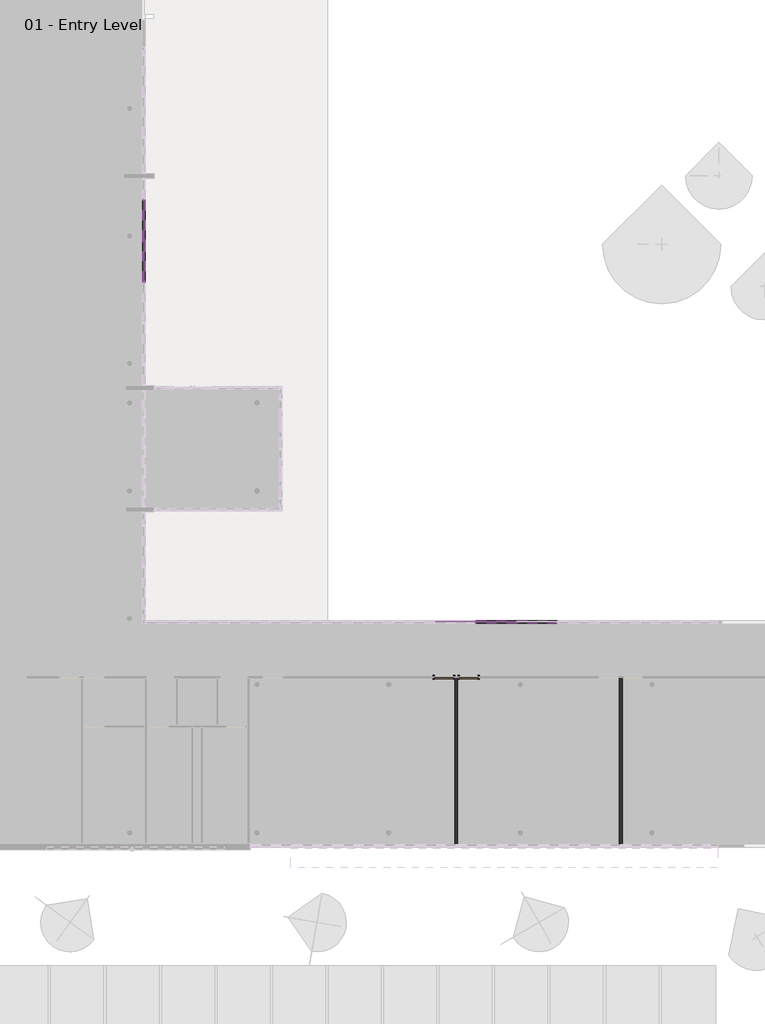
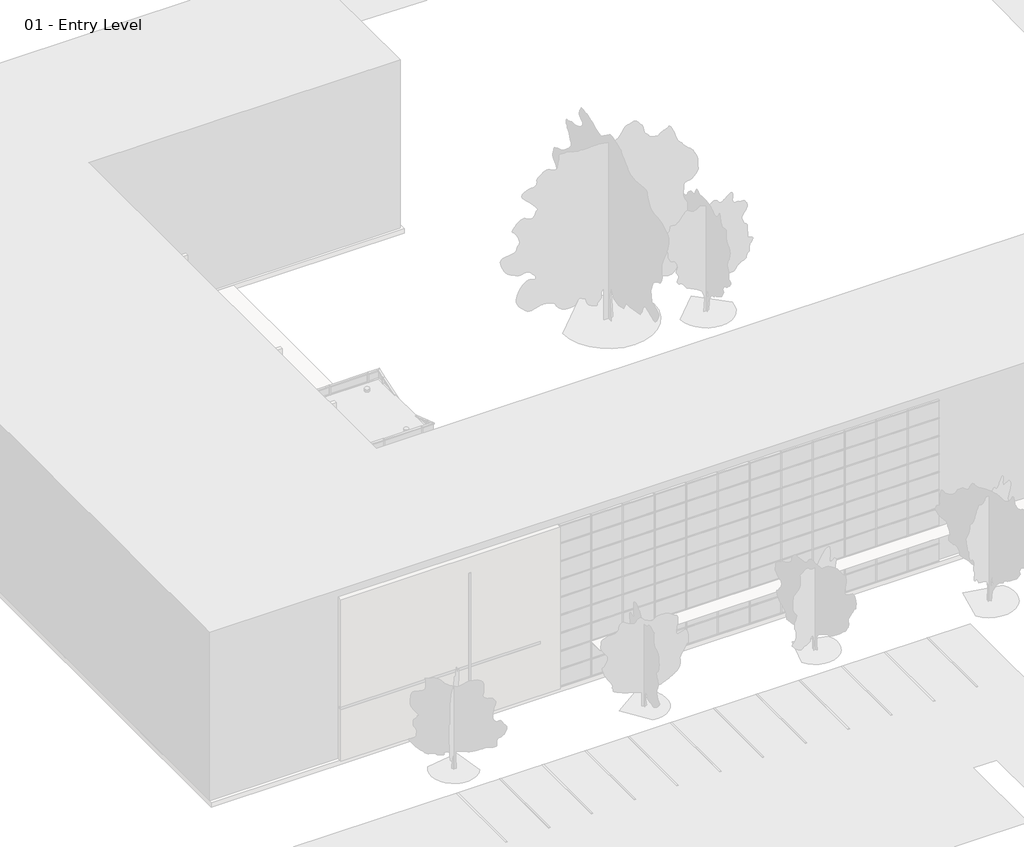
# One storey, part 18 of 34: 77 members, 36 plates, 2 doors, 2 walls.
"""IFC4 building model written with IfcOpenShell, lengths in millimetres."""

import ifcopenshell
import ifcopenshell.guid

model = None  # the IFC model being written
_history = None  # IfcOwnerHistory: only IFC2X3 demands one
_inside = {}  # id of a spatial element -> (the spatial element, [elements in it])
_under = {}  # id of a project, library or spatial element -> (it, [spatial elements below it])
_declared = {}  # id of a project -> (the project, [libraries it declares])
_typed = {}  # id of a type object -> (the type object, [elements of that type])
_made_of = {}  # id of a material, layer set ... -> (it, [elements and type objects made of it])


def new_model(schema):
    """Start an empty IFC model of exactly this schema.

    Asked for "IFC4X3", IfcOpenShell would pick the latest addendum, in which some entities
    have other attributes; the version numbers below select the first issue.
    IFC2X3 requires an IfcOwnerHistory on every rooted entity: one is made here for all.
    """
    global model, _history
    if schema == "IFC4X3":
        model = ifcopenshell.file(schema_version=(4, 3, 0, 0))
    else:
        model = ifcopenshell.file(schema=schema)
    _inside.clear()
    _under.clear()
    _declared.clear()
    _typed.clear()
    _made_of.clear()
    _history = None
    if model.schema == "IFC2X3":
        org = make("IfcOrganization", Name="unknown")
        user = make(
            "IfcPersonAndOrganization",
            ThePerson=make("IfcPerson", FamilyName="unknown"),
            TheOrganization=org,
        )
        app = make(
            "IfcApplication",
            ApplicationDeveloper=org,
            Version="unknown",
            ApplicationFullName="unknown",
            ApplicationIdentifier="unknown",
        )
        _history = make(
            "IfcOwnerHistory",
            OwningUser=user,
            OwningApplication=app,
            ChangeAction="ADDED",
            CreationDate=0,
        )
    return model


def make(cls, **values):
    """One entity of the class cls with the attributes given. An attribute that is None is left unset."""
    return model.create_entity(
        cls, **{name: value for name, value in values.items() if value is not None}
    )


def rooted(cls, **values):
    """An entity with a GlobalId (a new one), such as an element, a storey or a relation."""
    return make(cls, GlobalId=ifcopenshell.guid.new(), OwnerHistory=_history, **values)


def si_unit(unit_type, name, prefix=None):
    """IfcSIUnit, for example si_unit("LENGTHUNIT", "METRE", prefix="MILLI")."""
    return make("IfcSIUnit", UnitType=unit_type, Prefix=prefix, Name=name)


def assignment(units):
    """IfcUnitAssignment: the units of a project."""
    return None if units is None else make("IfcUnitAssignment", Units=units)


def point(xyz):
    """IfcCartesianPoint."""
    return None if xyz is None else make("IfcCartesianPoint", Coordinates=xyz)


def direction(xyz):
    """IfcDirection."""
    return None if xyz is None else make("IfcDirection", DirectionRatios=xyz)


def frame(location, z_axis=None, x_axis=None):
    """IfcAxis2Placement3D, a coordinate frame: its origin and axes. An axis left out is left unset."""
    return make(
        "IfcAxis2Placement3D",
        Location=point(location),
        Axis=direction(z_axis),
        RefDirection=direction(x_axis),
    )


def origin():
    """The frame at (0, 0, 0) with its axes left unset."""
    return frame((0.0, 0.0, 0.0))


def origin_with_axes():
    """The frame at (0, 0, 0) with the z axis (0, 0, 1) and the x axis (1, 0, 0) written out."""
    return frame((0.0, 0.0, 0.0), z_axis=(0.0, 0.0, 1.0), x_axis=(1.0, 0.0, 0.0))


def place(relative_to, where):
    """IfcLocalPlacement: puts the frame where relative to a parent placement (None: the world)."""
    return make(
        "IfcLocalPlacement", PlacementRelTo=relative_to, RelativePlacement=where
    )


def context(
    kind, dimensions, precision=None, world=None, true_north=None, identifier=None
):
    """IfcGeometricRepresentationContext, for example the 3D "Model" context."""
    return make(
        "IfcGeometricRepresentationContext",
        ContextIdentifier=identifier,
        ContextType=kind,
        CoordinateSpaceDimension=dimensions,
        Precision=precision,
        WorldCoordinateSystem=world,
        TrueNorth=true_north,
    )


def project(units=None, contexts=None):
    """IfcProject with its units and contexts."""
    return rooted(
        "IfcProject",
        Name="project",
        RepresentationContexts=contexts,
        UnitsInContext=assignment(units),
    )


def spatial(cls, under=None, at=None, **own):
    """A site, building, storey or space (cls), placed at a placement, below another one or the project."""
    s = rooted(cls, ObjectPlacement=at, **own)
    if under is not None:
        _under.setdefault(under.id(), (under, []))[1].append(s)
    return s


def polyline(points):
    """IfcPolyline through the points."""
    return make("IfcPolyline", Points=[point(p) for p in points])


def outline(outer, holes=None, kind="AREA"):
    """IfcArbitraryClosedProfileDef: a profile drawn as a closed curve; with holes, ...WithVoids."""
    if holes is None:
        return make("IfcArbitraryClosedProfileDef", ProfileType=kind, OuterCurve=outer)
    return make(
        "IfcArbitraryProfileDefWithVoids",
        ProfileType=kind,
        OuterCurve=outer,
        InnerCurves=holes,
    )


def extrude(swept, where, along, depth):
    """IfcExtrudedAreaSolid: the profile swept, set in the frame where, extruded along a direction by depth."""
    return make(
        "IfcExtrudedAreaSolid",
        SweptArea=swept,
        Position=where,
        ExtrudedDirection=direction(along),
        Depth=depth,
    )


def shape(context_of_items, identifier, shape_type, items):
    """IfcShapeRepresentation: the items that make up one representation, for example the "Body"."""
    return make(
        "IfcShapeRepresentation",
        ContextOfItems=context_of_items,
        RepresentationIdentifier=identifier,
        RepresentationType=shape_type,
        Items=items,
    )


def source(mapping_origin, context_of_items, identifier, shape_type, items):
    """IfcRepresentationMap: a shape defined once, which mapped items show again and again."""
    return make(
        "IfcRepresentationMap",
        MappingOrigin=mapping_origin,
        MappedRepresentation=shape(context_of_items, identifier, shape_type, items),
    )


def transform(
    local_origin,
    x_axis=None,
    y_axis=None,
    z_axis=None,
    scale=None,
    scale2=None,
    scale3=None,
    uniform=True,
):
    """IfcCartesianTransformationOperator3D, or its non-uniform kind. x_axis, y_axis, z_axis: its Axis1, 2, 3."""
    if uniform:
        return make(
            "IfcCartesianTransformationOperator3D",
            Axis1=direction(x_axis),
            Axis2=direction(y_axis),
            LocalOrigin=point(local_origin),
            Scale=scale,
            Axis3=direction(z_axis),
        )
    return make(
        "IfcCartesianTransformationOperator3DnonUniform",
        Axis1=direction(x_axis),
        Axis2=direction(y_axis),
        LocalOrigin=point(local_origin),
        Scale=scale,
        Axis3=direction(z_axis),
        Scale2=scale2,
        Scale3=scale3,
    )


def mapped(mapping_source, mapping_target):
    """IfcMappedItem: shows the shape of a source again, moved by a transform."""
    return make(
        "IfcMappedItem", MappingSource=mapping_source, MappingTarget=mapping_target
    )


def made_of(thing, what):
    """Note that an element or type object is made of a material, layer set ...; save() writes the relation."""
    if what is not None:
        _made_of.setdefault(what.id(), (what, []))[1].append(thing)
    return thing


def element(
    cls,
    number,
    at=None,
    inside=None,
    cuts=None,
    type_object=None,
    material=None,
    context=None,
    identifier="Body",
    shape_type=None,
    held_by="IfcProductDefinitionShape",
    body=None,
    shapes=None,
    **own,
):
    """One element of the class cls, such as IfcWall. Its Tag is "e" and its number.

    at: its placement. inside: the storey or other place that contains it. cuts: it is an
    opening in that element (IfcRelVoidsElement). A single representation is given by context,
    identifier, shape_type and body (its items); several are given by shapes. held_by: the class
    of the entity that holds the representations. save() writes the other relations.
    """
    e = rooted(cls, Tag="e%d" % number, ObjectPlacement=at, **own)
    if body is not None:
        shapes = [shape(context, identifier, shape_type, body)]
    if shapes is not None:
        e.Representation = make(held_by, Representations=shapes)
    if inside is not None:
        _inside.setdefault(inside.id(), (inside, []))[1].append(e)
    if cuts is not None:
        rooted(
            "IfcRelVoidsElement", RelatingBuildingElement=cuts, RelatedOpeningElement=e
        )
    if type_object is not None:
        _typed.setdefault(type_object.id(), (type_object, []))[1].append(e)
    return made_of(e, material)


def aggregate(whole, parts):
    """IfcRelAggregates: a whole, such as a stair, and the parts it consists of."""
    return rooted("IfcRelAggregates", RelatingObject=whole, RelatedObjects=parts)


def save(model, path):
    """Write the relations noted so far, then the file.

    IfcRelAggregates (storeys below a building ...), IfcRelContainedInSpatialStructure (elements
    in a storey), IfcRelDefinesByType, IfcRelAssociatesMaterial and IfcRelDeclares: one each for
    every whole, place, type object, material and project.
    """
    for whole, parts in _under.values():
        aggregate(whole, parts)
    for where, things in _inside.values():
        rooted(
            "IfcRelContainedInSpatialStructure",
            RelatedElements=things,
            RelatingStructure=where,
        )
    for kind, things in _typed.values():
        rooted("IfcRelDefinesByType", RelatedObjects=things, RelatingType=kind)
    for what, things in _made_of.values():
        rooted("IfcRelAssociatesMaterial", RelatedObjects=things, RelatingMaterial=what)
    for by, libraries in _declared.values():
        rooted("IfcRelDeclares", RelatingContext=by, RelatedDefinitions=libraries)
    model.write(path)


def door_a1797ceb(model_context):
    return source(origin(), model_context, "Body", "SweptSolid", [
        extrude(outline(polyline([(2209.8, -533.4), (0.0, -533.4), (0.0, -457.2), (2133.6, -457.2), (2133.6, 457.2), (0.0, 457.2), (0.0, 533.4), (2209.8, 533.4), (2209.8, -533.4)])), frame((0.0, 63.5, 0.0), z_axis=(0.0, 1.0, 0.0), x_axis=(0.0, 0.0, 1.0)), (0.0, 0.0, 1.0), 25.4),
        extrude(outline(polyline([(2209.8, 533.4), (2209.8, -533.4), (0.0, -533.4), (0.0, -457.2), (2133.6, -457.2), (2133.6, 457.2), (0.0, 457.2), (0.0, 533.4), (2209.8, 533.4)])), frame((0.0, -88.9, 0.0), z_axis=(0.0, 1.0, 0.0), x_axis=(0.0, 0.0, 1.0)), (0.0, 0.0, 1.0), 25.4),
        extrude(outline(polyline([(457.2, 12.7), (-457.2, 12.7), (-457.2, 63.5), (457.2, 63.5), (457.2, 12.7)])), origin_with_axes(), (0.0, 0.0, 1.0), 2133.6),
    ])


def door_a3eb833a(model_context):
    return source(origin(), model_context, "Body", "SweptSolid", [
        extrude(outline(polyline([(2209.8, -533.4), (0.0, -533.4), (0.0, -457.2), (2133.6, -457.2), (2133.6, 457.2), (0.0, 457.2), (0.0, 533.4), (2209.8, 533.4), (2209.8, -533.4)])), frame((0.0, -88.9, 0.0), z_axis=(0.0, 1.0, 0.0), x_axis=(0.0, 0.0, 1.0)), (0.0, 0.0, 1.0), 25.4),
        extrude(outline(polyline([(2209.8, 533.4), (2209.8, -533.4), (0.0, -533.4), (0.0, -457.2), (2133.6, -457.2), (2133.6, 457.2), (0.0, 457.2), (0.0, 533.4), (2209.8, 533.4)])), frame((0.0, 63.5, 0.0), z_axis=(0.0, 1.0, 0.0), x_axis=(0.0, 0.0, 1.0)), (0.0, 0.0, 1.0), 25.4),
        extrude(outline(polyline([(457.2, -12.7), (457.2, -63.5), (-457.2, -63.5), (-457.2, -12.7), (457.2, -12.7)])), origin_with_axes(), (0.0, 0.0, 1.0), 2133.6),
    ])


def member_2b49869a(model_context):
    return source(origin(), model_context, "Body", "SweptSolid", [
        extrude(outline(polyline([(31.75, 63.5), (31.75, -63.5), (-31.75, -63.5), (-31.75, 63.5), (31.75, 63.5)])), frame((0.0, 0.0, -1219.2), z_axis=(0.0, 0.0, 1.0), x_axis=(1.0, 0.0, 0.0)), (0.0, 0.0, 1.0), 1219.2),
    ])


def member_391b434c(model_context):
    return source(origin(), model_context, "Body", "SweptSolid", [
        extrude(outline(polyline([(0.0, 63.5), (0.0, -63.5), (-63.5, -63.5), (-63.5, 63.5), (0.0, 63.5)])), frame((0.0, 0.0, -1968.5), z_axis=(0.0, 0.0, 1.0), x_axis=(1.0, 0.0, 0.0)), (0.0, 0.0, 1.0), 1968.5),
    ])


def member_9e90ae50(model_context):
    return source(origin(), model_context, "Body", "SweptSolid", [
        extrude(outline(polyline([(31.75, 63.5), (31.75, -63.5), (-31.75, -63.5), (-31.75, 63.5), (31.75, 63.5)])), frame((0.0, 0.0, -1968.5), z_axis=(0.0, 0.0, 1.0), x_axis=(1.0, 0.0, 0.0)), (0.0, 0.0, 1.0), 1968.5),
    ])


def member_9193c932(model_context):
    return source(origin(), model_context, "Body", "SweptSolid", [
        extrude(outline(polyline([(0.0, 63.5), (0.0, -63.5), (-63.5, -63.5), (-63.5, 63.5), (0.0, 63.5)])), frame((0.0, 0.0, -965.2), z_axis=(0.0, 0.0, 1.0), x_axis=(1.0, 0.0, 0.0)), (0.0, 0.0, 1.0), 965.2),
    ])


def system_panel_glazed_1b9d6098(model_context):
    return source(origin(), model_context, "Body", "SweptSolid", [
        extrude(outline(polyline([(984.25, -44.45), (-984.25, -44.45), (-984.25, -19.05), (984.25, -19.05), (984.25, -44.45)])), origin_with_axes(), (0.0, 0.0, 1.0), 1123.95),
    ])


def system_panel_glazed_70da479d(model_context):
    return source(origin(), model_context, "Body", "SweptSolid", [
        extrude(outline(polyline([(984.25, -44.45), (-984.25, -44.45), (-984.25, -19.05), (984.25, -19.05), (984.25, -44.45)])), origin_with_axes(), (0.0, 0.0, 1.0), 1155.7),
    ])


model = new_model("IFC4")

# Units and contexts
model_context = context("Model", 3, world=origin())
ifc_project = project(units=[si_unit("LENGTHUNIT", "METRE", prefix="MILLI")], contexts=[model_context])

# Site, building, storey
site = spatial("IfcSite", under=ifc_project)
building = spatial("IfcBuilding", under=site)
storey = spatial("IfcBuildingStorey", under=building, Name="01 - Entry Level", Elevation=0.0)

# Doors
placement = place(None, origin())
door_shape = door_a1797ceb(model_context)
element("IfcDoor", 1, ObjectType="Single-Flush : 36\" x 84\"", at=placement, inside=storey, context=model_context, shape_type="MappedRepresentation", body=[
    mapped(door_shape, transform((33236.8207476, 8270.8, 0.0), x_axis=(-1.0, 0.0, 0.0), y_axis=(0.0, -1.0, 0.0), z_axis=(0.0, 0.0, 1.0))),
])
door_2_shape = door_a3eb833a(model_context)
element("IfcDoor", 2, ObjectType="Single-Flush : 36\" x 84\"", at=placement, inside=storey, context=model_context, shape_type="MappedRepresentation", body=[
    mapped(door_2_shape, transform((32017.6207476, 8270.8, 0.0), x_axis=(1.0, 0.0, 0.0), y_axis=(0.0, 1.0, 0.0), z_axis=(0.0, 0.0, 1.0))),
])

# Members
member_shape = member_2b49869a(model_context)
element("IfcMember", 3, ObjectType="Rectangular Mullion : 2.5\" x 5\" rectangular", at=placement, inside=storey, context=model_context, shape_type="MappedRepresentation", body=[
    mapped(member_shape, transform((35624.4207476, 11001.3, 9753.6), x_axis=(-1.0, 0.0, 0.0), y_axis=(0.0, 1.0, 0.0), z_axis=(0.0, 0.0, -1.0))),
])
element("IfcMember", 4, ObjectType="Rectangular Mullion : 2.5\" x 5\" rectangular", at=placement, inside=storey, context=model_context, shape_type="MappedRepresentation", body=[
    mapped(member_shape, transform((33592.4207476, 11001.3, 9753.6), x_axis=(-1.0, 0.0, 0.0), y_axis=(0.0, 1.0, 0.0), z_axis=(0.0, 0.0, -1.0))),
])
element("IfcMember", 5, ObjectType="Rectangular Mullion : 2.5\" x 5\" rectangular", at=placement, inside=storey, context=model_context, shape_type="MappedRepresentation", body=[
    mapped(member_shape, transform((17184.0207476, 27784.35, 9753.6), x_axis=(0.0, 1.0, 0.0), y_axis=(1.0, 0.0, 0.0), z_axis=(0.0, 0.0, -1.0))),
])
element("IfcMember", 6, ObjectType="Rectangular Mullion : 2.5\" x 5\" rectangular", at=placement, inside=storey, context=model_context, shape_type="MappedRepresentation", body=[
    mapped(member_shape, transform((17184.0207476, 29816.35, 9753.6), x_axis=(0.0, 1.0, 0.0), y_axis=(1.0, 0.0, 0.0), z_axis=(0.0, 0.0, -1.0))),
])
element("IfcMember", 7, ObjectType="Rectangular Mullion : 2.5\" x 5\" rectangular", at=placement, inside=storey, context=model_context, shape_type="MappedRepresentation", body=[
    mapped(member_shape, transform((17184.0207476, 31848.35, 9753.6), x_axis=(0.0, 1.0, 0.0), y_axis=(1.0, 0.0, 0.0), z_axis=(0.0, 0.0, -1.0))),
])
member_2_shape = member_391b434c(model_context)
element("IfcMember", 8, ObjectType="Rectangular Mullion : 2.5\" x 5\" rectangular", at=placement, inside=storey, context=model_context, shape_type="MappedRepresentation", body=[
    mapped(member_2_shape, transform((35656.1707476, 11001.3, 10972.8), x_axis=(0.0, 0.0, 1.0), y_axis=(0.0, 1.0, 0.0), z_axis=(-1.0, 0.0, 0.0))),
])
element("IfcMember", 9, ObjectType="Rectangular Mullion : 2.5\" x 5\" rectangular", at=placement, inside=storey, context=model_context, shape_type="MappedRepresentation", body=[
    mapped(member_2_shape, transform((33624.1707476, 11001.3, 10972.8), x_axis=(0.0, 0.0, 1.0), y_axis=(0.0, 1.0, 0.0), z_axis=(-1.0, 0.0, 0.0))),
])
element("IfcMember", 10, ObjectType="Rectangular Mullion : 2.5\" x 5\" rectangular", at=placement, inside=storey, context=model_context, shape_type="MappedRepresentation", body=[
    mapped(member_2_shape, transform((17184.0207476, 29784.6, 10972.8), x_axis=(0.0, 0.0, 1.0), y_axis=(1.0, 0.0, 0.0), z_axis=(0.0, 1.0, 0.0))),
])
element("IfcMember", 11, ObjectType="Rectangular Mullion : 2.5\" x 5\" rectangular", at=placement, inside=storey, context=model_context, shape_type="MappedRepresentation", body=[
    mapped(member_2_shape, transform((17184.0207476, 31816.6, 10972.8), x_axis=(0.0, 0.0, 1.0), y_axis=(1.0, 0.0, 0.0), z_axis=(0.0, 1.0, 0.0))),
])
element("IfcMember", 12, ObjectType="Rectangular Mullion : 2.5\" x 5\" rectangular", at=placement, inside=storey, context=model_context, shape_type="MappedRepresentation", body=[
    mapped(member_2_shape, transform((35592.6707476, 11001.3, 0.0), x_axis=(0.0, 0.0, -1.0), y_axis=(0.0, 1.0, 0.0), z_axis=(1.0, 0.0, 0.0))),
])
element("IfcMember", 13, ObjectType="Rectangular Mullion : 2.5\" x 5\" rectangular", at=placement, inside=storey, context=model_context, shape_type="MappedRepresentation", body=[
    mapped(member_2_shape, transform((33560.6707476, 11001.3, 0.0), x_axis=(0.0, 0.0, -1.0), y_axis=(0.0, 1.0, 0.0), z_axis=(1.0, 0.0, 0.0))),
])
element("IfcMember", 14, ObjectType="Rectangular Mullion : 2.5\" x 5\" rectangular", at=placement, inside=storey, context=model_context, shape_type="MappedRepresentation", body=[
    mapped(member_2_shape, transform((17184.0207476, 29848.1, 0.0), x_axis=(0.0, 0.0, -1.0), y_axis=(1.0, 0.0, 0.0), z_axis=(0.0, -1.0, 0.0))),
])
member_3_shape = member_9e90ae50(model_context)
element("IfcMember", 15, ObjectType="Rectangular Mullion : 2.5\" x 5\" rectangular", at=placement, inside=storey, context=model_context, shape_type="MappedRepresentation", body=[
    mapped(member_3_shape, transform((35656.1707476, 11001.3, 1219.2), x_axis=(0.0, 0.0, 1.0), y_axis=(0.0, 1.0, 0.0), z_axis=(-1.0, 0.0, 0.0))),
])
element("IfcMember", 16, ObjectType="Rectangular Mullion : 2.5\" x 5\" rectangular", at=placement, inside=storey, context=model_context, shape_type="MappedRepresentation", body=[
    mapped(member_3_shape, transform((33624.1707476, 11001.3, 1219.2), x_axis=(0.0, 0.0, 1.0), y_axis=(0.0, 1.0, 0.0), z_axis=(-1.0, 0.0, 0.0))),
])
element("IfcMember", 17, ObjectType="Rectangular Mullion : 2.5\" x 5\" rectangular", at=placement, inside=storey, context=model_context, shape_type="MappedRepresentation", body=[
    mapped(member_3_shape, transform((35656.1707476, 11001.3, 2438.4), x_axis=(0.0, 0.0, 1.0), y_axis=(0.0, 1.0, 0.0), z_axis=(-1.0, 0.0, 0.0))),
])
element("IfcMember", 18, ObjectType="Rectangular Mullion : 2.5\" x 5\" rectangular", at=placement, inside=storey, context=model_context, shape_type="MappedRepresentation", body=[
    mapped(member_3_shape, transform((33624.1707476, 11001.3, 2438.4), x_axis=(0.0, 0.0, 1.0), y_axis=(0.0, 1.0, 0.0), z_axis=(-1.0, 0.0, 0.0))),
])
element("IfcMember", 19, ObjectType="Rectangular Mullion : 2.5\" x 5\" rectangular", at=placement, inside=storey, context=model_context, shape_type="MappedRepresentation", body=[
    mapped(member_3_shape, transform((35656.1707476, 11001.3, 3657.6), x_axis=(0.0, 0.0, 1.0), y_axis=(0.0, 1.0, 0.0), z_axis=(-1.0, 0.0, 0.0))),
])
element("IfcMember", 20, ObjectType="Rectangular Mullion : 2.5\" x 5\" rectangular", at=placement, inside=storey, context=model_context, shape_type="MappedRepresentation", body=[
    mapped(member_3_shape, transform((33624.1707476, 11001.3, 3657.6), x_axis=(0.0, 0.0, 1.0), y_axis=(0.0, 1.0, 0.0), z_axis=(-1.0, 0.0, 0.0))),
])
element("IfcMember", 21, ObjectType="Rectangular Mullion : 2.5\" x 5\" rectangular", at=placement, inside=storey, context=model_context, shape_type="MappedRepresentation", body=[
    mapped(member_3_shape, transform((35656.1707476, 11001.3, 4876.8), x_axis=(0.0, 0.0, 1.0), y_axis=(0.0, 1.0, 0.0), z_axis=(-1.0, 0.0, 0.0))),
])
element("IfcMember", 22, ObjectType="Rectangular Mullion : 2.5\" x 5\" rectangular", at=placement, inside=storey, context=model_context, shape_type="MappedRepresentation", body=[
    mapped(member_3_shape, transform((33624.1707476, 11001.3, 4876.8), x_axis=(0.0, 0.0, 1.0), y_axis=(0.0, 1.0, 0.0), z_axis=(-1.0, 0.0, 0.0))),
])
element("IfcMember", 23, ObjectType="Rectangular Mullion : 2.5\" x 5\" rectangular", at=placement, inside=storey, context=model_context, shape_type="MappedRepresentation", body=[
    mapped(member_3_shape, transform((35656.1707476, 11001.3, 6096.0), x_axis=(0.0, 0.0, 1.0), y_axis=(0.0, 1.0, 0.0), z_axis=(-1.0, 0.0, 0.0))),
])
element("IfcMember", 24, ObjectType="Rectangular Mullion : 2.5\" x 5\" rectangular", at=placement, inside=storey, context=model_context, shape_type="MappedRepresentation", body=[
    mapped(member_3_shape, transform((33624.1707476, 11001.3, 6096.0), x_axis=(0.0, 0.0, 1.0), y_axis=(0.0, 1.0, 0.0), z_axis=(-1.0, 0.0, 0.0))),
])
element("IfcMember", 25, ObjectType="Rectangular Mullion : 2.5\" x 5\" rectangular", at=placement, inside=storey, context=model_context, shape_type="MappedRepresentation", body=[
    mapped(member_3_shape, transform((35656.1707476, 11001.3, 7315.2), x_axis=(0.0, 0.0, 1.0), y_axis=(0.0, 1.0, 0.0), z_axis=(-1.0, 0.0, 0.0))),
])
element("IfcMember", 26, ObjectType="Rectangular Mullion : 2.5\" x 5\" rectangular", at=placement, inside=storey, context=model_context, shape_type="MappedRepresentation", body=[
    mapped(member_3_shape, transform((33624.1707476, 11001.3, 7315.2), x_axis=(0.0, 0.0, 1.0), y_axis=(0.0, 1.0, 0.0), z_axis=(-1.0, 0.0, 0.0))),
])
element("IfcMember", 27, ObjectType="Rectangular Mullion : 2.5\" x 5\" rectangular", at=placement, inside=storey, context=model_context, shape_type="MappedRepresentation", body=[
    mapped(member_3_shape, transform((35656.1707476, 11001.3, 8534.4), x_axis=(0.0, 0.0, 1.0), y_axis=(0.0, 1.0, 0.0), z_axis=(-1.0, 0.0, 0.0))),
])
element("IfcMember", 28, ObjectType="Rectangular Mullion : 2.5\" x 5\" rectangular", at=placement, inside=storey, context=model_context, shape_type="MappedRepresentation", body=[
    mapped(member_3_shape, transform((33624.1707476, 11001.3, 8534.4), x_axis=(0.0, 0.0, 1.0), y_axis=(0.0, 1.0, 0.0), z_axis=(-1.0, 0.0, 0.0))),
])
element("IfcMember", 29, ObjectType="Rectangular Mullion : 2.5\" x 5\" rectangular", at=placement, inside=storey, context=model_context, shape_type="MappedRepresentation", body=[
    mapped(member_3_shape, transform((35656.1707476, 11001.3, 9753.6), x_axis=(0.0, 0.0, 1.0), y_axis=(0.0, 1.0, 0.0), z_axis=(-1.0, 0.0, 0.0))),
])
element("IfcMember", 30, ObjectType="Rectangular Mullion : 2.5\" x 5\" rectangular", at=placement, inside=storey, context=model_context, shape_type="MappedRepresentation", body=[
    mapped(member_3_shape, transform((33624.1707476, 11001.3, 9753.6), x_axis=(0.0, 0.0, 1.0), y_axis=(0.0, 1.0, 0.0), z_axis=(-1.0, 0.0, 0.0))),
])
element("IfcMember", 31, ObjectType="Rectangular Mullion : 2.5\" x 5\" rectangular", at=placement, inside=storey, context=model_context, shape_type="MappedRepresentation", body=[
    mapped(member_3_shape, transform((17184.0207476, 29784.6, 1219.2), x_axis=(0.0, 0.0, 1.0), y_axis=(1.0, 0.0, 0.0), z_axis=(0.0, 1.0, 0.0))),
])
element("IfcMember", 32, ObjectType="Rectangular Mullion : 2.5\" x 5\" rectangular", at=placement, inside=storey, context=model_context, shape_type="MappedRepresentation", body=[
    mapped(member_3_shape, transform((17184.0207476, 31816.6, 1219.2), x_axis=(0.0, 0.0, 1.0), y_axis=(1.0, 0.0, 0.0), z_axis=(0.0, 1.0, 0.0))),
])
element("IfcMember", 33, ObjectType="Rectangular Mullion : 2.5\" x 5\" rectangular", at=placement, inside=storey, context=model_context, shape_type="MappedRepresentation", body=[
    mapped(member_3_shape, transform((17184.0207476, 29784.6, 2438.4), x_axis=(0.0, 0.0, 1.0), y_axis=(1.0, 0.0, 0.0), z_axis=(0.0, 1.0, 0.0))),
])
element("IfcMember", 34, ObjectType="Rectangular Mullion : 2.5\" x 5\" rectangular", at=placement, inside=storey, context=model_context, shape_type="MappedRepresentation", body=[
    mapped(member_3_shape, transform((17184.0207476, 31816.6, 2438.4), x_axis=(0.0, 0.0, 1.0), y_axis=(1.0, 0.0, 0.0), z_axis=(0.0, 1.0, 0.0))),
])
element("IfcMember", 35, ObjectType="Rectangular Mullion : 2.5\" x 5\" rectangular", at=placement, inside=storey, context=model_context, shape_type="MappedRepresentation", body=[
    mapped(member_3_shape, transform((17184.0207476, 29784.6, 3657.6), x_axis=(0.0, 0.0, 1.0), y_axis=(1.0, 0.0, 0.0), z_axis=(0.0, 1.0, 0.0))),
])
element("IfcMember", 36, ObjectType="Rectangular Mullion : 2.5\" x 5\" rectangular", at=placement, inside=storey, context=model_context, shape_type="MappedRepresentation", body=[
    mapped(member_3_shape, transform((17184.0207476, 31816.6, 3657.6), x_axis=(0.0, 0.0, 1.0), y_axis=(1.0, 0.0, 0.0), z_axis=(0.0, 1.0, 0.0))),
])
element("IfcMember", 37, ObjectType="Rectangular Mullion : 2.5\" x 5\" rectangular", at=placement, inside=storey, context=model_context, shape_type="MappedRepresentation", body=[
    mapped(member_3_shape, transform((17184.0207476, 29784.6, 4876.8), x_axis=(0.0, 0.0, 1.0), y_axis=(1.0, 0.0, 0.0), z_axis=(0.0, 1.0, 0.0))),
])
element("IfcMember", 38, ObjectType="Rectangular Mullion : 2.5\" x 5\" rectangular", at=placement, inside=storey, context=model_context, shape_type="MappedRepresentation", body=[
    mapped(member_3_shape, transform((17184.0207476, 31816.6, 4876.8), x_axis=(0.0, 0.0, 1.0), y_axis=(1.0, 0.0, 0.0), z_axis=(0.0, 1.0, 0.0))),
])
element("IfcMember", 39, ObjectType="Rectangular Mullion : 2.5\" x 5\" rectangular", at=placement, inside=storey, context=model_context, shape_type="MappedRepresentation", body=[
    mapped(member_3_shape, transform((17184.0207476, 29784.6, 6096.0), x_axis=(0.0, 0.0, 1.0), y_axis=(1.0, 0.0, 0.0), z_axis=(0.0, 1.0, 0.0))),
])
element("IfcMember", 40, ObjectType="Rectangular Mullion : 2.5\" x 5\" rectangular", at=placement, inside=storey, context=model_context, shape_type="MappedRepresentation", body=[
    mapped(member_3_shape, transform((17184.0207476, 31816.6, 6096.0), x_axis=(0.0, 0.0, 1.0), y_axis=(1.0, 0.0, 0.0), z_axis=(0.0, 1.0, 0.0))),
])
element("IfcMember", 41, ObjectType="Rectangular Mullion : 2.5\" x 5\" rectangular", at=placement, inside=storey, context=model_context, shape_type="MappedRepresentation", body=[
    mapped(member_3_shape, transform((17184.0207476, 29784.6, 7315.2), x_axis=(0.0, 0.0, 1.0), y_axis=(1.0, 0.0, 0.0), z_axis=(0.0, 1.0, 0.0))),
])
element("IfcMember", 42, ObjectType="Rectangular Mullion : 2.5\" x 5\" rectangular", at=placement, inside=storey, context=model_context, shape_type="MappedRepresentation", body=[
    mapped(member_3_shape, transform((17184.0207476, 31816.6, 7315.2), x_axis=(0.0, 0.0, 1.0), y_axis=(1.0, 0.0, 0.0), z_axis=(0.0, 1.0, 0.0))),
])
element("IfcMember", 43, ObjectType="Rectangular Mullion : 2.5\" x 5\" rectangular", at=placement, inside=storey, context=model_context, shape_type="MappedRepresentation", body=[
    mapped(member_3_shape, transform((17184.0207476, 29784.6, 8534.4), x_axis=(0.0, 0.0, 1.0), y_axis=(1.0, 0.0, 0.0), z_axis=(0.0, 1.0, 0.0))),
])
element("IfcMember", 44, ObjectType="Rectangular Mullion : 2.5\" x 5\" rectangular", at=placement, inside=storey, context=model_context, shape_type="MappedRepresentation", body=[
    mapped(member_3_shape, transform((17184.0207476, 31816.6, 8534.4), x_axis=(0.0, 0.0, 1.0), y_axis=(1.0, 0.0, 0.0), z_axis=(0.0, 1.0, 0.0))),
])
element("IfcMember", 45, ObjectType="Rectangular Mullion : 2.5\" x 5\" rectangular", at=placement, inside=storey, context=model_context, shape_type="MappedRepresentation", body=[
    mapped(member_3_shape, transform((17184.0207476, 29784.6, 9753.6), x_axis=(0.0, 0.0, 1.0), y_axis=(1.0, 0.0, 0.0), z_axis=(0.0, 1.0, 0.0))),
])
element("IfcMember", 46, ObjectType="Rectangular Mullion : 2.5\" x 5\" rectangular", at=placement, inside=storey, context=model_context, shape_type="MappedRepresentation", body=[
    mapped(member_3_shape, transform((17184.0207476, 31816.6, 9753.6), x_axis=(0.0, 0.0, 1.0), y_axis=(1.0, 0.0, 0.0), z_axis=(0.0, 1.0, 0.0))),
])
element("IfcMember", 47, ObjectType="Rectangular Mullion : 2.5\" x 5\" rectangular", at=placement, inside=storey, context=model_context, shape_type="MappedRepresentation", body=[
    mapped(member_shape, transform((35624.4207476, 11001.3, 0.0), x_axis=(-1.0, 0.0, 0.0), y_axis=(0.0, 1.0, 0.0), z_axis=(0.0, 0.0, -1.0))),
])
element("IfcMember", 48, ObjectType="Rectangular Mullion : 2.5\" x 5\" rectangular", at=placement, inside=storey, context=model_context, shape_type="MappedRepresentation", body=[
    mapped(member_shape, transform((33592.4207476, 11001.3, 0.0), x_axis=(-1.0, 0.0, 0.0), y_axis=(0.0, 1.0, 0.0), z_axis=(0.0, 0.0, -1.0))),
])
element("IfcMember", 49, ObjectType="Rectangular Mullion : 2.5\" x 5\" rectangular", at=placement, inside=storey, context=model_context, shape_type="MappedRepresentation", body=[
    mapped(member_shape, transform((17184.0207476, 29816.35, 0.0), x_axis=(0.0, 1.0, 0.0), y_axis=(1.0, 0.0, 0.0), z_axis=(0.0, 0.0, -1.0))),
])
element("IfcMember", 50, ObjectType="Rectangular Mullion : 2.5\" x 5\" rectangular", at=placement, inside=storey, context=model_context, shape_type="MappedRepresentation", body=[
    mapped(member_shape, transform((17184.0207476, 31848.35, 0.0), x_axis=(0.0, 1.0, 0.0), y_axis=(1.0, 0.0, 0.0), z_axis=(0.0, 0.0, -1.0))),
])
element("IfcMember", 51, ObjectType="Rectangular Mullion : 2.5\" x 5\" rectangular", at=placement, inside=storey, context=model_context, shape_type="MappedRepresentation", body=[
    mapped(member_shape, transform((35624.4207476, 11001.3, 1219.2), x_axis=(-1.0, 0.0, 0.0), y_axis=(0.0, 1.0, 0.0), z_axis=(0.0, 0.0, -1.0))),
])
element("IfcMember", 52, ObjectType="Rectangular Mullion : 2.5\" x 5\" rectangular", at=placement, inside=storey, context=model_context, shape_type="MappedRepresentation", body=[
    mapped(member_shape, transform((33592.4207476, 11001.3, 1219.2), x_axis=(-1.0, 0.0, 0.0), y_axis=(0.0, 1.0, 0.0), z_axis=(0.0, 0.0, -1.0))),
])
element("IfcMember", 53, ObjectType="Rectangular Mullion : 2.5\" x 5\" rectangular", at=placement, inside=storey, context=model_context, shape_type="MappedRepresentation", body=[
    mapped(member_shape, transform((35624.4207476, 11001.3, 2438.4), x_axis=(-1.0, 0.0, 0.0), y_axis=(0.0, 1.0, 0.0), z_axis=(0.0, 0.0, -1.0))),
])
element("IfcMember", 54, ObjectType="Rectangular Mullion : 2.5\" x 5\" rectangular", at=placement, inside=storey, context=model_context, shape_type="MappedRepresentation", body=[
    mapped(member_shape, transform((33592.4207476, 11001.3, 2438.4), x_axis=(-1.0, 0.0, 0.0), y_axis=(0.0, 1.0, 0.0), z_axis=(0.0, 0.0, -1.0))),
])
element("IfcMember", 55, ObjectType="Rectangular Mullion : 2.5\" x 5\" rectangular", at=placement, inside=storey, context=model_context, shape_type="MappedRepresentation", body=[
    mapped(member_shape, transform((35624.4207476, 11001.3, 3657.6), x_axis=(-1.0, 0.0, 0.0), y_axis=(0.0, 1.0, 0.0), z_axis=(0.0, 0.0, -1.0))),
])
element("IfcMember", 56, ObjectType="Rectangular Mullion : 2.5\" x 5\" rectangular", at=placement, inside=storey, context=model_context, shape_type="MappedRepresentation", body=[
    mapped(member_shape, transform((33592.4207476, 11001.3, 3657.6), x_axis=(-1.0, 0.0, 0.0), y_axis=(0.0, 1.0, 0.0), z_axis=(0.0, 0.0, -1.0))),
])
element("IfcMember", 57, ObjectType="Rectangular Mullion : 2.5\" x 5\" rectangular", at=placement, inside=storey, context=model_context, shape_type="MappedRepresentation", body=[
    mapped(member_shape, transform((35624.4207476, 11001.3, 4876.8), x_axis=(-1.0, 0.0, 0.0), y_axis=(0.0, 1.0, 0.0), z_axis=(0.0, 0.0, -1.0))),
])
element("IfcMember", 58, ObjectType="Rectangular Mullion : 2.5\" x 5\" rectangular", at=placement, inside=storey, context=model_context, shape_type="MappedRepresentation", body=[
    mapped(member_shape, transform((33592.4207476, 11001.3, 4876.8), x_axis=(-1.0, 0.0, 0.0), y_axis=(0.0, 1.0, 0.0), z_axis=(0.0, 0.0, -1.0))),
])
element("IfcMember", 59, ObjectType="Rectangular Mullion : 2.5\" x 5\" rectangular", at=placement, inside=storey, context=model_context, shape_type="MappedRepresentation", body=[
    mapped(member_shape, transform((35624.4207476, 11001.3, 6096.0), x_axis=(-1.0, 0.0, 0.0), y_axis=(0.0, 1.0, 0.0), z_axis=(0.0, 0.0, -1.0))),
])
element("IfcMember", 60, ObjectType="Rectangular Mullion : 2.5\" x 5\" rectangular", at=placement, inside=storey, context=model_context, shape_type="MappedRepresentation", body=[
    mapped(member_shape, transform((33592.4207476, 11001.3, 6096.0), x_axis=(-1.0, 0.0, 0.0), y_axis=(0.0, 1.0, 0.0), z_axis=(0.0, 0.0, -1.0))),
])
element("IfcMember", 61, ObjectType="Rectangular Mullion : 2.5\" x 5\" rectangular", at=placement, inside=storey, context=model_context, shape_type="MappedRepresentation", body=[
    mapped(member_shape, transform((35624.4207476, 11001.3, 7315.2), x_axis=(-1.0, 0.0, 0.0), y_axis=(0.0, 1.0, 0.0), z_axis=(0.0, 0.0, -1.0))),
])
element("IfcMember", 62, ObjectType="Rectangular Mullion : 2.5\" x 5\" rectangular", at=placement, inside=storey, context=model_context, shape_type="MappedRepresentation", body=[
    mapped(member_shape, transform((33592.4207476, 11001.3, 7315.2), x_axis=(-1.0, 0.0, 0.0), y_axis=(0.0, 1.0, 0.0), z_axis=(0.0, 0.0, -1.0))),
])
element("IfcMember", 63, ObjectType="Rectangular Mullion : 2.5\" x 5\" rectangular", at=placement, inside=storey, context=model_context, shape_type="MappedRepresentation", body=[
    mapped(member_shape, transform((35624.4207476, 11001.3, 8534.4), x_axis=(-1.0, 0.0, 0.0), y_axis=(0.0, 1.0, 0.0), z_axis=(0.0, 0.0, -1.0))),
])
element("IfcMember", 64, ObjectType="Rectangular Mullion : 2.5\" x 5\" rectangular", at=placement, inside=storey, context=model_context, shape_type="MappedRepresentation", body=[
    mapped(member_shape, transform((33592.4207476, 11001.3, 8534.4), x_axis=(-1.0, 0.0, 0.0), y_axis=(0.0, 1.0, 0.0), z_axis=(0.0, 0.0, -1.0))),
])
element("IfcMember", 65, ObjectType="Rectangular Mullion : 2.5\" x 5\" rectangular", at=placement, inside=storey, context=model_context, shape_type="MappedRepresentation", body=[
    mapped(member_shape, transform((17184.0207476, 29816.35, 1219.2), x_axis=(0.0, 1.0, 0.0), y_axis=(1.0, 0.0, 0.0), z_axis=(0.0, 0.0, -1.0))),
])
element("IfcMember", 66, ObjectType="Rectangular Mullion : 2.5\" x 5\" rectangular", at=placement, inside=storey, context=model_context, shape_type="MappedRepresentation", body=[
    mapped(member_shape, transform((17184.0207476, 31848.35, 1219.2), x_axis=(0.0, 1.0, 0.0), y_axis=(1.0, 0.0, 0.0), z_axis=(0.0, 0.0, -1.0))),
])
element("IfcMember", 67, ObjectType="Rectangular Mullion : 2.5\" x 5\" rectangular", at=placement, inside=storey, context=model_context, shape_type="MappedRepresentation", body=[
    mapped(member_shape, transform((17184.0207476, 29816.35, 2438.4), x_axis=(0.0, 1.0, 0.0), y_axis=(1.0, 0.0, 0.0), z_axis=(0.0, 0.0, -1.0))),
])
element("IfcMember", 68, ObjectType="Rectangular Mullion : 2.5\" x 5\" rectangular", at=placement, inside=storey, context=model_context, shape_type="MappedRepresentation", body=[
    mapped(member_shape, transform((17184.0207476, 31848.35, 2438.4), x_axis=(0.0, 1.0, 0.0), y_axis=(1.0, 0.0, 0.0), z_axis=(0.0, 0.0, -1.0))),
])
element("IfcMember", 69, ObjectType="Rectangular Mullion : 2.5\" x 5\" rectangular", at=placement, inside=storey, context=model_context, shape_type="MappedRepresentation", body=[
    mapped(member_shape, transform((17184.0207476, 29816.35, 3657.6), x_axis=(0.0, 1.0, 0.0), y_axis=(1.0, 0.0, 0.0), z_axis=(0.0, 0.0, -1.0))),
])
element("IfcMember", 70, ObjectType="Rectangular Mullion : 2.5\" x 5\" rectangular", at=placement, inside=storey, context=model_context, shape_type="MappedRepresentation", body=[
    mapped(member_shape, transform((17184.0207476, 31848.35, 3657.6), x_axis=(0.0, 1.0, 0.0), y_axis=(1.0, 0.0, 0.0), z_axis=(0.0, 0.0, -1.0))),
])
element("IfcMember", 71, ObjectType="Rectangular Mullion : 2.5\" x 5\" rectangular", at=placement, inside=storey, context=model_context, shape_type="MappedRepresentation", body=[
    mapped(member_shape, transform((17184.0207476, 29816.35, 4876.8), x_axis=(0.0, 1.0, 0.0), y_axis=(1.0, 0.0, 0.0), z_axis=(0.0, 0.0, -1.0))),
])
element("IfcMember", 72, ObjectType="Rectangular Mullion : 2.5\" x 5\" rectangular", at=placement, inside=storey, context=model_context, shape_type="MappedRepresentation", body=[
    mapped(member_shape, transform((17184.0207476, 31848.35, 4876.8), x_axis=(0.0, 1.0, 0.0), y_axis=(1.0, 0.0, 0.0), z_axis=(0.0, 0.0, -1.0))),
])
element("IfcMember", 73, ObjectType="Rectangular Mullion : 2.5\" x 5\" rectangular", at=placement, inside=storey, context=model_context, shape_type="MappedRepresentation", body=[
    mapped(member_shape, transform((17184.0207476, 29816.35, 6096.0), x_axis=(0.0, 1.0, 0.0), y_axis=(1.0, 0.0, 0.0), z_axis=(0.0, 0.0, -1.0))),
])
element("IfcMember", 74, ObjectType="Rectangular Mullion : 2.5\" x 5\" rectangular", at=placement, inside=storey, context=model_context, shape_type="MappedRepresentation", body=[
    mapped(member_shape, transform((17184.0207476, 31848.35, 6096.0), x_axis=(0.0, 1.0, 0.0), y_axis=(1.0, 0.0, 0.0), z_axis=(0.0, 0.0, -1.0))),
])
element("IfcMember", 75, ObjectType="Rectangular Mullion : 2.5\" x 5\" rectangular", at=placement, inside=storey, context=model_context, shape_type="MappedRepresentation", body=[
    mapped(member_shape, transform((17184.0207476, 29816.35, 7315.2), x_axis=(0.0, 1.0, 0.0), y_axis=(1.0, 0.0, 0.0), z_axis=(0.0, 0.0, -1.0))),
])
element("IfcMember", 76, ObjectType="Rectangular Mullion : 2.5\" x 5\" rectangular", at=placement, inside=storey, context=model_context, shape_type="MappedRepresentation", body=[
    mapped(member_shape, transform((17184.0207476, 31848.35, 7315.2), x_axis=(0.0, 1.0, 0.0), y_axis=(1.0, 0.0, 0.0), z_axis=(0.0, 0.0, -1.0))),
])
element("IfcMember", 77, ObjectType="Rectangular Mullion : 2.5\" x 5\" rectangular", at=placement, inside=storey, context=model_context, shape_type="MappedRepresentation", body=[
    mapped(member_shape, transform((17184.0207476, 29816.35, 8534.4), x_axis=(0.0, 1.0, 0.0), y_axis=(1.0, 0.0, 0.0), z_axis=(0.0, 0.0, -1.0))),
])
element("IfcMember", 78, ObjectType="Rectangular Mullion : 2.5\" x 5\" rectangular", at=placement, inside=storey, context=model_context, shape_type="MappedRepresentation", body=[
    mapped(member_shape, transform((17184.0207476, 31848.35, 8534.4), x_axis=(0.0, 1.0, 0.0), y_axis=(1.0, 0.0, 0.0), z_axis=(0.0, 0.0, -1.0))),
])
member_4_shape = member_9193c932(model_context)
element("IfcMember", 79, ObjectType="Rectangular Mullion : 2.5\" x 5\" rectangular", at=placement, inside=storey, context=model_context, shape_type="MappedRepresentation", body=[
    mapped(member_4_shape, transform((17184.0207476, 31880.1, 0.0), x_axis=(0.0, 0.0, -1.0), y_axis=(1.0, 0.0, 0.0), z_axis=(0.0, -1.0, 0.0))),
])

# Plates
system_panel_glazed_shape = system_panel_glazed_1b9d6098(model_context)
element("IfcPlate", 80, ObjectType="System Panel : Glazed", at=placement, inside=storey, context=model_context, shape_type="MappedRepresentation", body=[
    mapped(system_panel_glazed_shape, transform((34608.4207476, 11001.3, 63.5), x_axis=(-1.0, 0.0, 0.0), y_axis=(0.0, -1.0, 0.0), z_axis=(0.0, 0.0, 1.0))),
])
element("IfcPlate", 81, ObjectType="System Panel : Glazed", at=placement, inside=storey, context=model_context, shape_type="MappedRepresentation", body=[
    mapped(system_panel_glazed_shape, transform((32576.4207476, 11001.3, 63.5), x_axis=(-1.0, 0.0, 0.0), y_axis=(0.0, -1.0, 0.0), z_axis=(0.0, 0.0, 1.0))),
])
element("IfcPlate", 82, ObjectType="System Panel : Glazed", at=placement, inside=storey, context=model_context, shape_type="MappedRepresentation", body=[
    mapped(system_panel_glazed_shape, transform((34608.4207476, 11001.3, 9785.35), x_axis=(-1.0, 0.0, 0.0), y_axis=(0.0, -1.0, 0.0), z_axis=(0.0, 0.0, 1.0))),
])
element("IfcPlate", 83, ObjectType="System Panel : Glazed", at=placement, inside=storey, context=model_context, shape_type="MappedRepresentation", body=[
    mapped(system_panel_glazed_shape, transform((32576.4207476, 11001.3, 9785.35), x_axis=(-1.0, 0.0, 0.0), y_axis=(0.0, -1.0, 0.0), z_axis=(0.0, 0.0, 1.0))),
])
element("IfcPlate", 84, ObjectType="System Panel : Glazed", at=placement, inside=storey, context=model_context, shape_type="MappedRepresentation", body=[
    mapped(system_panel_glazed_shape, transform((17184.0207476, 28800.35, 63.5), x_axis=(0.0, 1.0, 0.0), y_axis=(-1.0, 0.0, 0.0), z_axis=(0.0, 0.0, 1.0))),
])
element("IfcPlate", 85, ObjectType="System Panel : Glazed", at=placement, inside=storey, context=model_context, shape_type="MappedRepresentation", body=[
    mapped(system_panel_glazed_shape, transform((17184.0207476, 30832.35, 63.5), x_axis=(0.0, 1.0, 0.0), y_axis=(-1.0, 0.0, 0.0), z_axis=(0.0, 0.0, 1.0))),
])
element("IfcPlate", 86, ObjectType="System Panel : Glazed", at=placement, inside=storey, context=model_context, shape_type="MappedRepresentation", body=[
    mapped(system_panel_glazed_shape, transform((17184.0207476, 28800.35, 9785.35), x_axis=(0.0, 1.0, 0.0), y_axis=(-1.0, 0.0, 0.0), z_axis=(0.0, 0.0, 1.0))),
])
element("IfcPlate", 87, ObjectType="System Panel : Glazed", at=placement, inside=storey, context=model_context, shape_type="MappedRepresentation", body=[
    mapped(system_panel_glazed_shape, transform((17184.0207476, 30832.35, 9785.35), x_axis=(0.0, 1.0, 0.0), y_axis=(-1.0, 0.0, 0.0), z_axis=(0.0, 0.0, 1.0))),
])
system_panel_glazed_2_shape = system_panel_glazed_70da479d(model_context)
element("IfcPlate", 88, ObjectType="System Panel : Glazed", at=placement, inside=storey, context=model_context, shape_type="MappedRepresentation", body=[
    mapped(system_panel_glazed_2_shape, transform((34608.4207476, 11001.3, 1250.95), x_axis=(-1.0, 0.0, 0.0), y_axis=(0.0, -1.0, 0.0), z_axis=(0.0, 0.0, 1.0))),
])
element("IfcPlate", 89, ObjectType="System Panel : Glazed", at=placement, inside=storey, context=model_context, shape_type="MappedRepresentation", body=[
    mapped(system_panel_glazed_2_shape, transform((32576.4207476, 11001.3, 1250.95), x_axis=(-1.0, 0.0, 0.0), y_axis=(0.0, -1.0, 0.0), z_axis=(0.0, 0.0, 1.0))),
])
element("IfcPlate", 90, ObjectType="System Panel : Glazed", at=placement, inside=storey, context=model_context, shape_type="MappedRepresentation", body=[
    mapped(system_panel_glazed_2_shape, transform((34608.4207476, 11001.3, 2470.15), x_axis=(-1.0, 0.0, 0.0), y_axis=(0.0, -1.0, 0.0), z_axis=(0.0, 0.0, 1.0))),
])
element("IfcPlate", 91, ObjectType="System Panel : Glazed", at=placement, inside=storey, context=model_context, shape_type="MappedRepresentation", body=[
    mapped(system_panel_glazed_2_shape, transform((32576.4207476, 11001.3, 2470.15), x_axis=(-1.0, 0.0, 0.0), y_axis=(0.0, -1.0, 0.0), z_axis=(0.0, 0.0, 1.0))),
])
element("IfcPlate", 92, ObjectType="System Panel : Glazed", at=placement, inside=storey, context=model_context, shape_type="MappedRepresentation", body=[
    mapped(system_panel_glazed_2_shape, transform((34608.4207476, 11001.3, 3689.35), x_axis=(-1.0, 0.0, 0.0), y_axis=(0.0, -1.0, 0.0), z_axis=(0.0, 0.0, 1.0))),
])
element("IfcPlate", 93, ObjectType="System Panel : Glazed", at=placement, inside=storey, context=model_context, shape_type="MappedRepresentation", body=[
    mapped(system_panel_glazed_2_shape, transform((32576.4207476, 11001.3, 3689.35), x_axis=(-1.0, 0.0, 0.0), y_axis=(0.0, -1.0, 0.0), z_axis=(0.0, 0.0, 1.0))),
])
element("IfcPlate", 94, ObjectType="System Panel : Glazed", at=placement, inside=storey, context=model_context, shape_type="MappedRepresentation", body=[
    mapped(system_panel_glazed_2_shape, transform((34608.4207476, 11001.3, 4908.55), x_axis=(-1.0, 0.0, 0.0), y_axis=(0.0, -1.0, 0.0), z_axis=(0.0, 0.0, 1.0))),
])
element("IfcPlate", 95, ObjectType="System Panel : Glazed", at=placement, inside=storey, context=model_context, shape_type="MappedRepresentation", body=[
    mapped(system_panel_glazed_2_shape, transform((32576.4207476, 11001.3, 4908.55), x_axis=(-1.0, 0.0, 0.0), y_axis=(0.0, -1.0, 0.0), z_axis=(0.0, 0.0, 1.0))),
])
element("IfcPlate", 96, ObjectType="System Panel : Glazed", at=placement, inside=storey, context=model_context, shape_type="MappedRepresentation", body=[
    mapped(system_panel_glazed_2_shape, transform((34608.4207476, 11001.3, 6127.75), x_axis=(-1.0, 0.0, 0.0), y_axis=(0.0, -1.0, 0.0), z_axis=(0.0, 0.0, 1.0))),
])
element("IfcPlate", 97, ObjectType="System Panel : Glazed", at=placement, inside=storey, context=model_context, shape_type="MappedRepresentation", body=[
    mapped(system_panel_glazed_2_shape, transform((32576.4207476, 11001.3, 6127.75), x_axis=(-1.0, 0.0, 0.0), y_axis=(0.0, -1.0, 0.0), z_axis=(0.0, 0.0, 1.0))),
])
element("IfcPlate", 98, ObjectType="System Panel : Glazed", at=placement, inside=storey, context=model_context, shape_type="MappedRepresentation", body=[
    mapped(system_panel_glazed_2_shape, transform((34608.4207476, 11001.3, 7346.95), x_axis=(-1.0, 0.0, 0.0), y_axis=(0.0, -1.0, 0.0), z_axis=(0.0, 0.0, 1.0))),
])
element("IfcPlate", 99, ObjectType="System Panel : Glazed", at=placement, inside=storey, context=model_context, shape_type="MappedRepresentation", body=[
    mapped(system_panel_glazed_2_shape, transform((32576.4207476, 11001.3, 7346.95), x_axis=(-1.0, 0.0, 0.0), y_axis=(0.0, -1.0, 0.0), z_axis=(0.0, 0.0, 1.0))),
])
element("IfcPlate", 100, ObjectType="System Panel : Glazed", at=placement, inside=storey, context=model_context, shape_type="MappedRepresentation", body=[
    mapped(system_panel_glazed_2_shape, transform((34608.4207476, 11001.3, 8566.15), x_axis=(-1.0, 0.0, 0.0), y_axis=(0.0, -1.0, 0.0), z_axis=(0.0, 0.0, 1.0))),
])
element("IfcPlate", 101, ObjectType="System Panel : Glazed", at=placement, inside=storey, context=model_context, shape_type="MappedRepresentation", body=[
    mapped(system_panel_glazed_2_shape, transform((32576.4207476, 11001.3, 8566.15), x_axis=(-1.0, 0.0, 0.0), y_axis=(0.0, -1.0, 0.0), z_axis=(0.0, 0.0, 1.0))),
])
element("IfcPlate", 102, ObjectType="System Panel : Glazed", at=placement, inside=storey, context=model_context, shape_type="MappedRepresentation", body=[
    mapped(system_panel_glazed_2_shape, transform((17184.0207476, 28800.35, 1250.95), x_axis=(0.0, 1.0, 0.0), y_axis=(-1.0, 0.0, 0.0), z_axis=(0.0, 0.0, 1.0))),
])
element("IfcPlate", 103, ObjectType="System Panel : Glazed", at=placement, inside=storey, context=model_context, shape_type="MappedRepresentation", body=[
    mapped(system_panel_glazed_2_shape, transform((17184.0207476, 30832.35, 1250.95), x_axis=(0.0, 1.0, 0.0), y_axis=(-1.0, 0.0, 0.0), z_axis=(0.0, 0.0, 1.0))),
])
element("IfcPlate", 104, ObjectType="System Panel : Glazed", at=placement, inside=storey, context=model_context, shape_type="MappedRepresentation", body=[
    mapped(system_panel_glazed_2_shape, transform((17184.0207476, 28800.35, 2470.15), x_axis=(0.0, 1.0, 0.0), y_axis=(-1.0, 0.0, 0.0), z_axis=(0.0, 0.0, 1.0))),
])
element("IfcPlate", 105, ObjectType="System Panel : Glazed", at=placement, inside=storey, context=model_context, shape_type="MappedRepresentation", body=[
    mapped(system_panel_glazed_2_shape, transform((17184.0207476, 30832.35, 2470.15), x_axis=(0.0, 1.0, 0.0), y_axis=(-1.0, 0.0, 0.0), z_axis=(0.0, 0.0, 1.0))),
])
element("IfcPlate", 106, ObjectType="System Panel : Glazed", at=placement, inside=storey, context=model_context, shape_type="MappedRepresentation", body=[
    mapped(system_panel_glazed_2_shape, transform((17184.0207476, 28800.35, 3689.35), x_axis=(0.0, 1.0, 0.0), y_axis=(-1.0, 0.0, 0.0), z_axis=(0.0, 0.0, 1.0))),
])
element("IfcPlate", 107, ObjectType="System Panel : Glazed", at=placement, inside=storey, context=model_context, shape_type="MappedRepresentation", body=[
    mapped(system_panel_glazed_2_shape, transform((17184.0207476, 30832.35, 3689.35), x_axis=(0.0, 1.0, 0.0), y_axis=(-1.0, 0.0, 0.0), z_axis=(0.0, 0.0, 1.0))),
])
element("IfcPlate", 108, ObjectType="System Panel : Glazed", at=placement, inside=storey, context=model_context, shape_type="MappedRepresentation", body=[
    mapped(system_panel_glazed_2_shape, transform((17184.0207476, 28800.35, 4908.55), x_axis=(0.0, 1.0, 0.0), y_axis=(-1.0, 0.0, 0.0), z_axis=(0.0, 0.0, 1.0))),
])
element("IfcPlate", 109, ObjectType="System Panel : Glazed", at=placement, inside=storey, context=model_context, shape_type="MappedRepresentation", body=[
    mapped(system_panel_glazed_2_shape, transform((17184.0207476, 30832.35, 4908.55), x_axis=(0.0, 1.0, 0.0), y_axis=(-1.0, 0.0, 0.0), z_axis=(0.0, 0.0, 1.0))),
])
element("IfcPlate", 110, ObjectType="System Panel : Glazed", at=placement, inside=storey, context=model_context, shape_type="MappedRepresentation", body=[
    mapped(system_panel_glazed_2_shape, transform((17184.0207476, 28800.35, 6127.75), x_axis=(0.0, 1.0, 0.0), y_axis=(-1.0, 0.0, 0.0), z_axis=(0.0, 0.0, 1.0))),
])
element("IfcPlate", 111, ObjectType="System Panel : Glazed", at=placement, inside=storey, context=model_context, shape_type="MappedRepresentation", body=[
    mapped(system_panel_glazed_2_shape, transform((17184.0207476, 30832.35, 6127.75), x_axis=(0.0, 1.0, 0.0), y_axis=(-1.0, 0.0, 0.0), z_axis=(0.0, 0.0, 1.0))),
])
element("IfcPlate", 112, ObjectType="System Panel : Glazed", at=placement, inside=storey, context=model_context, shape_type="MappedRepresentation", body=[
    mapped(system_panel_glazed_2_shape, transform((17184.0207476, 28800.35, 7346.95), x_axis=(0.0, 1.0, 0.0), y_axis=(-1.0, 0.0, 0.0), z_axis=(0.0, 0.0, 1.0))),
])
element("IfcPlate", 113, ObjectType="System Panel : Glazed", at=placement, inside=storey, context=model_context, shape_type="MappedRepresentation", body=[
    mapped(system_panel_glazed_2_shape, transform((17184.0207476, 30832.35, 7346.95), x_axis=(0.0, 1.0, 0.0), y_axis=(-1.0, 0.0, 0.0), z_axis=(0.0, 0.0, 1.0))),
])
element("IfcPlate", 114, ObjectType="System Panel : Glazed", at=placement, inside=storey, context=model_context, shape_type="MappedRepresentation", body=[
    mapped(system_panel_glazed_2_shape, transform((17184.0207476, 28800.35, 8566.15), x_axis=(0.0, 1.0, 0.0), y_axis=(-1.0, 0.0, 0.0), z_axis=(0.0, 0.0, 1.0))),
])
element("IfcPlate", 115, ObjectType="System Panel : Glazed", at=placement, inside=storey, context=model_context, shape_type="MappedRepresentation", body=[
    mapped(system_panel_glazed_2_shape, transform((17184.0207476, 30832.35, 8566.15), x_axis=(0.0, 1.0, 0.0), y_axis=(-1.0, 0.0, 0.0), z_axis=(0.0, 0.0, 1.0))),
])

# Walls
element("IfcWall", 116, ObjectType="Generic - 5\"", at=placement, inside=storey, context=model_context, shape_type="SweptSolid", body=[
    extrude(outline(polyline([(32690.7207476, 8207.3), (32690.7207476, 15.8), (32563.7207476, 15.8), (32563.7207476, 8207.3), (32690.7207476, 8207.3)])), origin_with_axes(), (0.0, 0.0, 1.0), 3403.6),
])
element("IfcWall", 117, ObjectType="Generic - 5\"", at=placement, inside=storey, context=model_context, shape_type="SweptSolid", body=[
    extrude(outline(polyline([(40818.7207476, 8207.3), (40818.7207476, 15.8), (40691.7207476, 15.8), (40691.7207476, 8207.3), (40818.7207476, 8207.3)])), origin_with_axes(), (0.0, 0.0, 1.0), 3403.6),
])

save(model, "model.ifc")
